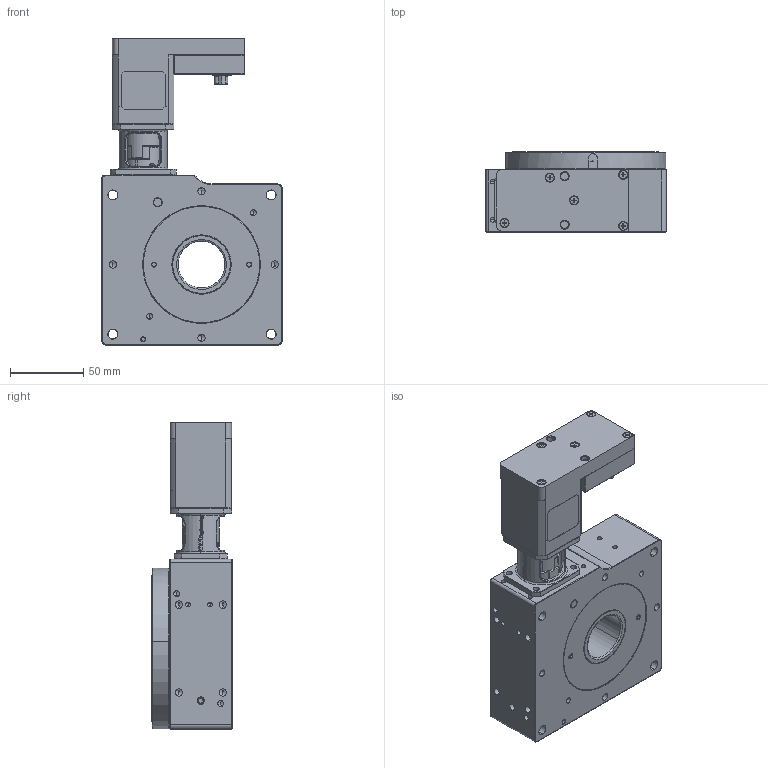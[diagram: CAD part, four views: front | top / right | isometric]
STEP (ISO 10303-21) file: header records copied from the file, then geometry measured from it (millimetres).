
FILE_DESCRIPTION (( 'STEP AP203' ), '1' );
FILE_NAME ('MDT360110-SG-I40-AK-S.STEP', '2019-09-05T07:54:46', ( '' ), ( '' ), 'SwSTEP 2.0', 'SolidWorks 2019', '' );
FILE_SCHEMA (( 'CONFIG_CONTROL_DESIGN' ));
Length unit declared in the file: millimetre
Products named in the file (4): MDT360110-000-02-Drehscheibe-komplett; coli17_mini_PAC14C3_n_Standard; MDT360110-SG-I40-AK-S; MDT360110-000-01-Gehäuse-komplett
Assembly tree (3 placements, depth 2):
  MDT360110-SG-I40-AK-S
    MDT360110-000-01-Gehäuse-komplett
    MDT360110-000-02-Drehscheibe-komplett
    coli17_mini_PAC14C3_n_Standard
Bounding box: 123 x 55 x 209 mm (x, y, z)
Volume: 527650.1 mm3; surface area: 224257.8 mm2
Topology: 54 solids, 68 shells, 2190 faces, 5412 edges, 3326 vertices
Faces by surface type: cylinder 684, plane 593, bspline 380, cone 307, torus 222, sphere 4
Entity records: 83721 total; most frequent: CARTESIAN_POINT 35854, ORIENTED_EDGE 10438, DIRECTION 8713, EDGE_CURVE 5238, AXIS2_PLACEMENT_3D 3483, VERTEX_POINT 3326, EDGE_LOOP 2435, FACE_OUTER_BOUND 2190
